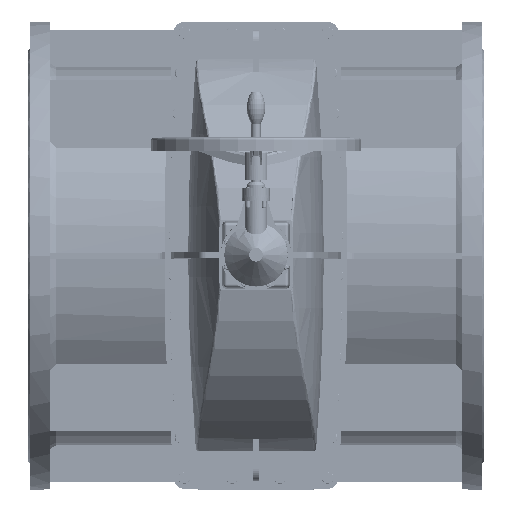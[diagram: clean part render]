
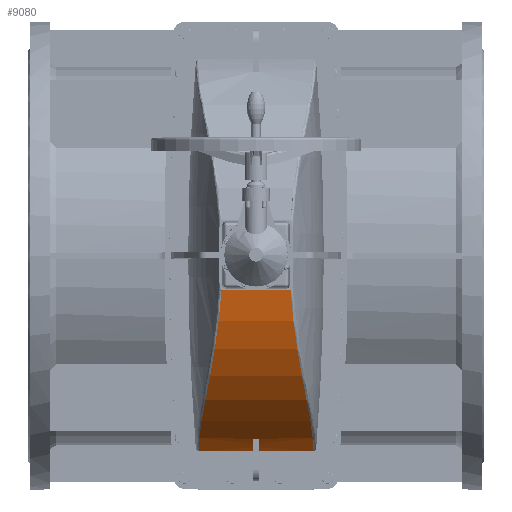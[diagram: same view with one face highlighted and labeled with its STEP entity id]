
A CAD part, top view. The second image highlights one B-rep face of the part: STEP entity #9080.
In plain terms, the highlighted cylindrical face has radius 457.333 mm (diameter 914.667 mm), a partial arc.
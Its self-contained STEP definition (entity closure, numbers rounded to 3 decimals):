
#9080=ADVANCED_FACE('',(#17004),#17006,.T.);
#17004=FACE_BOUND('',#17005,.T.);
#17005=EDGE_LOOP('',(#30536,#30537,#30538,#30539,#30540,#30541,#30542,#30543));
#17006=CYLINDRICAL_SURFACE('',#17007,457.333);
#17007=AXIS2_PLACEMENT_3D('',#17008,#17009,#17010);
#17008=CARTESIAN_POINT('',(0.,-149.505,-43.));
#17009=DIRECTION('',(0.,1.,0.));
#17010=DIRECTION('',(-0.939,0.,0.345));
#30536=ORIENTED_EDGE('',*,*,#35280,.F.);
#30537=ORIENTED_EDGE('',*,*,#35281,.F.);
#30538=ORIENTED_EDGE('',*,*,#35282,.F.);
#30539=ORIENTED_EDGE('',*,*,#35283,.F.);
#30540=ORIENTED_EDGE('',*,*,#35284,.F.);
#30541=ORIENTED_EDGE('',*,*,#35285,.T.);
#30542=ORIENTED_EDGE('',*,*,#35286,.F.);
#30543=ORIENTED_EDGE('',*,*,#35287,.F.);
#35280=EDGE_CURVE('',#39966,#39967,#39968,.F.);
#35281=EDGE_CURVE('',#39969,#39966,#39970,.T.);
#35282=EDGE_CURVE('',#39971,#39969,#39972,.T.);
#35283=EDGE_CURVE('',#39973,#39971,#39974,.T.);
#35284=EDGE_CURVE('',#39975,#39973,#39976,.F.);
#35285=EDGE_CURVE('',#39975,#39977,#39978,.T.);
#35286=EDGE_CURVE('',#39979,#39977,#39980,.T.);
#35287=EDGE_CURVE('',#39967,#39979,#39981,.T.);
#39966=VERTEX_POINT('',#57884);
#39967=VERTEX_POINT('',#57885);
#39968=CIRCLE('',#57886,457.333);
#39969=VERTEX_POINT('',#57890);
#39970=LINE('',#57891,#57892);
#39971=VERTEX_POINT('',#57894);
#39972=CIRCLE('',#57895,457.333);
#39973=VERTEX_POINT('',#57899);
#39974=LINE('',#57900,#57901);
#39975=VERTEX_POINT('',#57903);
#39976=B_SPLINE_CURVE_WITH_KNOTS('',3,
(#57904,#57905,#57906,#57907,#57908,#57909,#57910,#57911,#57912,#57913,#57914,#57915,
#57916,#57917),
.UNSPECIFIED.,.F.,.F.,
(4,1,1,1,1,1,1,1,1,1,1,4),
(0.,0.098,0.184,0.264,0.35,0.449,
0.557,0.668,0.772,0.861,0.936,
1.),
.UNSPECIFIED.);
#39977=VERTEX_POINT('',#57918);
#39978=LINE('',#57919,#57920);
#39979=VERTEX_POINT('',#57922);
#39980=B_SPLINE_CURVE_WITH_KNOTS('',3,
(#57923,#57924,#57925,#57926,#57927,#57928,#57929,#57930,#57931,#57932,#57933,#57934,
#57935,#57936),
.UNSPECIFIED.,.F.,.F.,
(4,1,1,1,1,1,1,1,1,1,1,4),
(0.,0.098,0.184,0.264,0.35,0.449,
0.557,0.668,0.772,0.861,0.936,
1.),
.UNSPECIFIED.);
#39981=LINE('',#57937,#57938);
#57884=CARTESIAN_POINT('',(-402.213,7.167,174.667));
#57885=CARTESIAN_POINT('',(-429.296,7.167,114.667));
#57886=AXIS2_PLACEMENT_3D('',#57887,#57888,#57889);
#57887=CARTESIAN_POINT('',(0.,7.167,-43.));
#57888=DIRECTION('',(0.,1.,0.));
#57889=DIRECTION('',(-0.939,0.,0.345));
#57890=CARTESIAN_POINT('',(-402.213,-7.167,174.667));
#57891=CARTESIAN_POINT('',(-402.213,-7.167,174.667));
#57892=VECTOR('',#57893,1.);
#57893=DIRECTION('',(0.,1.,0.));
#57894=CARTESIAN_POINT('',(-429.296,-7.167,114.667));
#57895=AXIS2_PLACEMENT_3D('',#57896,#57897,#57898);
#57896=CARTESIAN_POINT('',(0.,-7.167,-43.));
#57897=DIRECTION('',(0.,1.,0.));
#57898=DIRECTION('',(-0.939,0.,0.345));
#57899=CARTESIAN_POINT('',(-429.296,-124.779,114.667));
#57900=CARTESIAN_POINT('',(-429.296,-124.779,114.667));
#57901=VECTOR('',#57902,1.);
#57902=DIRECTION('',(0.,1.,0.));
#57903=CARTESIAN_POINT('',(-77.482,-75.618,407.722));
#57904=CARTESIAN_POINT('',(-429.296,-124.779,114.667));
#57905=CARTESIAN_POINT('',(-423.893,-125.315,129.379));
#57906=CARTESIAN_POINT('',(-412.294,-125.288,156.556));
#57907=CARTESIAN_POINT('',(-391.976,-123.449,193.73));
#57908=CARTESIAN_POINT('',(-369.518,-120.209,227.452));
#57909=CARTESIAN_POINT('',(-342.992,-115.58,260.594));
#57910=CARTESIAN_POINT('',(-310.308,-109.33,294.162));
#57911=CARTESIAN_POINT('',(-271.297,-101.776,326.408));
#57912=CARTESIAN_POINT('',(-228.21,-93.926,354.429));
#57913=CARTESIAN_POINT('',(-184.826,-86.993,376.177));
#57914=CARTESIAN_POINT('',(-144.748,-81.685,391.423));
#57915=CARTESIAN_POINT('',(-109.498,-78.021,401.452));
#57916=CARTESIAN_POINT('',(-87.649,-76.262,405.974));
#57917=CARTESIAN_POINT('',(-77.482,-75.618,407.722));
#57918=CARTESIAN_POINT('',(-77.482,75.618,407.722));
#57919=CARTESIAN_POINT('',(-77.482,-75.618,407.722));
#57920=VECTOR('',#57921,1.);
#57921=DIRECTION('',(0.,1.,0.));
#57922=CARTESIAN_POINT('',(-429.296,124.779,114.667));
#57923=CARTESIAN_POINT('',(-429.296,124.779,114.667));
#57924=CARTESIAN_POINT('',(-423.893,125.315,129.379));
#57925=CARTESIAN_POINT('',(-412.294,125.288,156.556));
#57926=CARTESIAN_POINT('',(-391.976,123.449,193.73));
#57927=CARTESIAN_POINT('',(-369.518,120.209,227.452));
#57928=CARTESIAN_POINT('',(-342.992,115.58,260.594));
#57929=CARTESIAN_POINT('',(-310.308,109.33,294.162));
#57930=CARTESIAN_POINT('',(-271.297,101.776,326.408));
#57931=CARTESIAN_POINT('',(-228.21,93.926,354.429));
#57932=CARTESIAN_POINT('',(-184.826,86.993,376.177));
#57933=CARTESIAN_POINT('',(-144.748,81.685,391.423));
#57934=CARTESIAN_POINT('',(-109.498,78.021,401.452));
#57935=CARTESIAN_POINT('',(-87.649,76.262,405.974));
#57936=CARTESIAN_POINT('',(-77.482,75.618,407.722));
#57937=CARTESIAN_POINT('',(-429.296,7.167,114.667));
#57938=VECTOR('',#57939,1.);
#57939=DIRECTION('',(0.,1.,0.));
